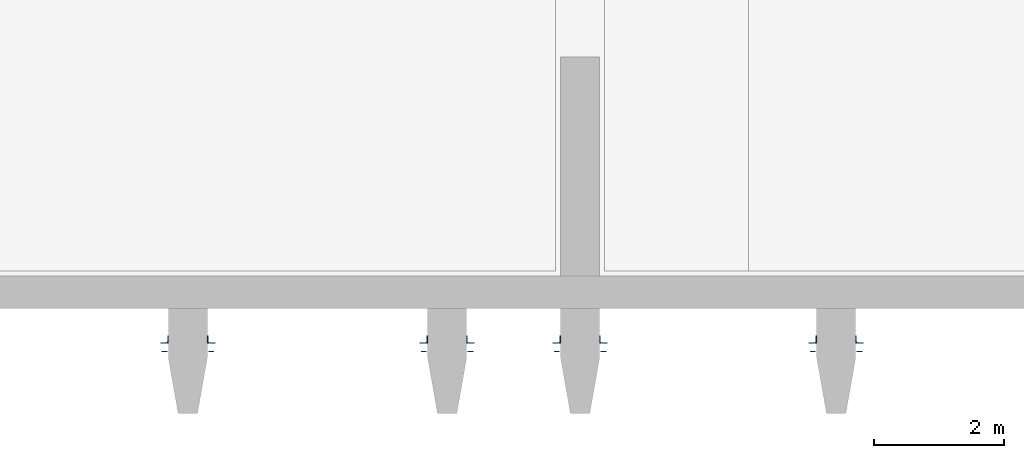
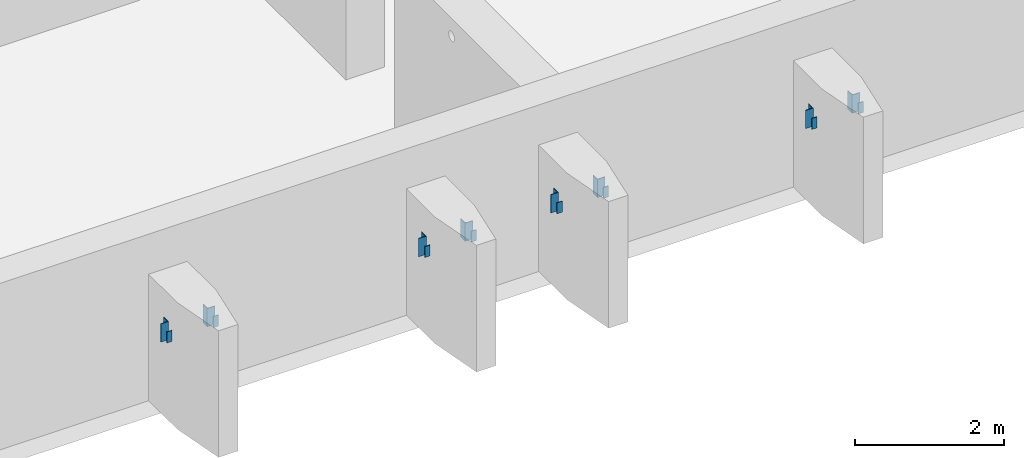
# One storey, part 6 of 22: 16 columns.
"""IFC2X3 building model written with IfcOpenShell, lengths in millimetres."""

import ifcopenshell
import ifcopenshell.guid

model = None  # the IFC model being written
_history = None  # IfcOwnerHistory: only IFC2X3 demands one
_inside = {}  # id of a spatial element -> (the spatial element, [elements in it])
_under = {}  # id of a project, library or spatial element -> (it, [spatial elements below it])
_declared = {}  # id of a project -> (the project, [libraries it declares])
_typed = {}  # id of a type object -> (the type object, [elements of that type])
_made_of = {}  # id of a material, layer set ... -> (it, [elements and type objects made of it])


def new_model(schema):
    """Start an empty IFC model of exactly this schema.

    Asked for "IFC4X3", IfcOpenShell would pick the latest addendum, in which some entities
    have other attributes; the version numbers below select the first issue.
    IFC2X3 requires an IfcOwnerHistory on every rooted entity: one is made here for all.
    """
    global model, _history
    if schema == "IFC4X3":
        model = ifcopenshell.file(schema_version=(4, 3, 0, 0))
    else:
        model = ifcopenshell.file(schema=schema)
    _inside.clear()
    _under.clear()
    _declared.clear()
    _typed.clear()
    _made_of.clear()
    _history = None
    if model.schema == "IFC2X3":
        org = make("IfcOrganization", Name="unknown")
        user = make(
            "IfcPersonAndOrganization",
            ThePerson=make("IfcPerson", FamilyName="unknown"),
            TheOrganization=org,
        )
        app = make(
            "IfcApplication",
            ApplicationDeveloper=org,
            Version="unknown",
            ApplicationFullName="unknown",
            ApplicationIdentifier="unknown",
        )
        _history = make(
            "IfcOwnerHistory",
            OwningUser=user,
            OwningApplication=app,
            ChangeAction="ADDED",
            CreationDate=0,
        )
    return model


def make(cls, **values):
    """One entity of the class cls with the attributes given. An attribute that is None is left unset."""
    return model.create_entity(
        cls, **{name: value for name, value in values.items() if value is not None}
    )


def entity(cls, *values):
    """Any entity or typed value of the class cls, its attributes in the order of the schema. None: left unset."""
    e = model.create_entity(cls)
    for i, value in enumerate(values):
        if value is not None:
            e[i] = value
    return e


def rooted(cls, **values):
    """An entity with a GlobalId (a new one), such as an element, a storey or a relation."""
    return make(cls, GlobalId=ifcopenshell.guid.new(), OwnerHistory=_history, **values)


def si_unit(unit_type, name, prefix=None):
    """IfcSIUnit, for example si_unit("LENGTHUNIT", "METRE", prefix="MILLI")."""
    return make("IfcSIUnit", UnitType=unit_type, Prefix=prefix, Name=name)


def converted_unit(unit_type, name, factor, base, dimensions=None, offset=None):
    """IfcConversionBasedUnit, such as the inch: factor (a typed value) times the base unit."""
    return make(
        "IfcConversionBasedUnit"
        if offset is None
        else "IfcConversionBasedUnitWithOffset",
        ConversionOffset=offset,
        Dimensions=None
        if dimensions is None
        else entity("IfcDimensionalExponents", *dimensions),
        UnitType=unit_type,
        Name=name,
        ConversionFactor=make(
            "IfcMeasureWithUnit", ValueComponent=factor, UnitComponent=base
        ),
    )


def derived_unit(unit_type, elements):
    """IfcDerivedUnit: a product of units, each with its exponent."""
    return make(
        "IfcDerivedUnit",
        Elements=[
            make("IfcDerivedUnitElement", Unit=unit, Exponent=power)
            for unit, power in elements
        ],
        UnitType=unit_type,
    )


def assignment(units):
    """IfcUnitAssignment: the units of a project."""
    return None if units is None else make("IfcUnitAssignment", Units=units)


def point(xyz):
    """IfcCartesianPoint."""
    return None if xyz is None else make("IfcCartesianPoint", Coordinates=xyz)


def direction(xyz):
    """IfcDirection."""
    return None if xyz is None else make("IfcDirection", DirectionRatios=xyz)


def frame(location, z_axis=None, x_axis=None):
    """IfcAxis2Placement3D, a coordinate frame: its origin and axes. An axis left out is left unset."""
    return make(
        "IfcAxis2Placement3D",
        Location=point(location),
        Axis=direction(z_axis),
        RefDirection=direction(x_axis),
    )


def frame_2d(location, x_axis=None):
    """IfcAxis2Placement2D, a coordinate frame in the plane: its origin and x axis."""
    return make(
        "IfcAxis2Placement2D", Location=point(location), RefDirection=direction(x_axis)
    )


def origin():
    """The frame at (0, 0, 0) with its axes left unset."""
    return frame((0.0, 0.0, 0.0))


def place(relative_to, where):
    """IfcLocalPlacement: puts the frame where relative to a parent placement (None: the world)."""
    return make(
        "IfcLocalPlacement", PlacementRelTo=relative_to, RelativePlacement=where
    )


def context(
    kind, dimensions, precision=None, world=None, true_north=None, identifier=None
):
    """IfcGeometricRepresentationContext, for example the 3D "Model" context."""
    return make(
        "IfcGeometricRepresentationContext",
        ContextIdentifier=identifier,
        ContextType=kind,
        CoordinateSpaceDimension=dimensions,
        Precision=precision,
        WorldCoordinateSystem=world,
        TrueNorth=true_north,
    )


def subcontext(parent, identifier, kind, view, scale=None):
    """IfcGeometricRepresentationSubContext, for example "Body" below "Model"."""
    return make(
        "IfcGeometricRepresentationSubContext",
        ContextIdentifier=identifier,
        ContextType=kind,
        ParentContext=parent,
        TargetScale=scale,
        TargetView=view,
    )


def project(units=None, contexts=None):
    """IfcProject with its units and contexts."""
    return rooted(
        "IfcProject",
        Name="project",
        RepresentationContexts=contexts,
        UnitsInContext=assignment(units),
    )


def spatial(cls, under=None, at=None, **own):
    """A site, building, storey or space (cls), placed at a placement, below another one or the project."""
    s = rooted(cls, ObjectPlacement=at, **own)
    if under is not None:
        _under.setdefault(under.id(), (under, []))[1].append(s)
    return s


def polyline(points):
    """IfcPolyline through the points."""
    return make("IfcPolyline", Points=[point(p) for p in points])


def circle_curve(where, radius):
    """IfcCircle in the frame where."""
    return make("IfcCircle", Position=where, Radius=radius)


def parameter(value):
    """IfcParameterValue: where a trimmed curve begins or ends, as a parameter of its basis curve."""
    return model.create_entity("IfcParameterValue", value)


def trimmed(basis, trim1, trim2, sense, master):
    """IfcTrimmedCurve: the piece of a basis curve between two trims."""
    return make(
        "IfcTrimmedCurve",
        BasisCurve=basis,
        Trim1=trim1,
        Trim2=trim2,
        SenseAgreement=sense,
        MasterRepresentation=master,
    )


def segment(curve, same_sense, transition):
    """IfcCompositeCurveSegment."""
    return make(
        "IfcCompositeCurveSegment",
        Transition=transition,
        SameSense=same_sense,
        ParentCurve=curve,
    )


def composite_curve(segments, self_intersect=None):
    """IfcCompositeCurve: segments joined end to end."""
    return make("IfcCompositeCurve", Segments=segments, SelfIntersect=self_intersect)


def profile(cls, at=None, kind="AREA", **sizes):
    """A parametric profile (cls). Its sizes go by their IFC names, for example OverallWidth=200.0."""
    return make(cls, ProfileType=kind, Position=at, **sizes)


def rectangle(**sizes):
    """IfcRectangleProfileDef."""
    return profile("IfcRectangleProfileDef", **sizes)


def outline(outer, holes=None, kind="AREA"):
    """IfcArbitraryClosedProfileDef: a profile drawn as a closed curve; with holes, ...WithVoids."""
    if holes is None:
        return make("IfcArbitraryClosedProfileDef", ProfileType=kind, OuterCurve=outer)
    return make(
        "IfcArbitraryProfileDefWithVoids",
        ProfileType=kind,
        OuterCurve=outer,
        InnerCurves=holes,
    )


def extrude(swept, where, along, depth):
    """IfcExtrudedAreaSolid: the profile swept, set in the frame where, extruded along a direction by depth."""
    return make(
        "IfcExtrudedAreaSolid",
        SweptArea=swept,
        Position=where,
        ExtrudedDirection=direction(along),
        Depth=depth,
    )


def shape(context_of_items, identifier, shape_type, items):
    """IfcShapeRepresentation: the items that make up one representation, for example the "Body"."""
    return make(
        "IfcShapeRepresentation",
        ContextOfItems=context_of_items,
        RepresentationIdentifier=identifier,
        RepresentationType=shape_type,
        Items=items,
    )


def source(mapping_origin, context_of_items, identifier, shape_type, items):
    """IfcRepresentationMap: a shape defined once, which mapped items show again and again."""
    return make(
        "IfcRepresentationMap",
        MappingOrigin=mapping_origin,
        MappedRepresentation=shape(context_of_items, identifier, shape_type, items),
    )


def transform(
    local_origin,
    x_axis=None,
    y_axis=None,
    z_axis=None,
    scale=None,
    scale2=None,
    scale3=None,
    uniform=True,
):
    """IfcCartesianTransformationOperator3D, or its non-uniform kind. x_axis, y_axis, z_axis: its Axis1, 2, 3."""
    if uniform:
        return make(
            "IfcCartesianTransformationOperator3D",
            Axis1=direction(x_axis),
            Axis2=direction(y_axis),
            LocalOrigin=point(local_origin),
            Scale=scale,
            Axis3=direction(z_axis),
        )
    return make(
        "IfcCartesianTransformationOperator3DnonUniform",
        Axis1=direction(x_axis),
        Axis2=direction(y_axis),
        LocalOrigin=point(local_origin),
        Scale=scale,
        Axis3=direction(z_axis),
        Scale2=scale2,
        Scale3=scale3,
    )


def mapped(mapping_source, mapping_target):
    """IfcMappedItem: shows the shape of a source again, moved by a transform."""
    return make(
        "IfcMappedItem", MappingSource=mapping_source, MappingTarget=mapping_target
    )


def material(Name=None, Category=None):
    """IfcMaterial."""
    return make("IfcMaterial", Name=Name, Category=Category)


def made_of(thing, what):
    """Note that an element or type object is made of a material, layer set ...; save() writes the relation."""
    if what is not None:
        _made_of.setdefault(what.id(), (what, []))[1].append(thing)
    return thing


def type_object(cls, material=None, **own):
    """A type object (cls), such as IfcWallType, which elements share."""
    return made_of(rooted(cls, **own), material)


def type_shapes(of_type, sources):
    """Give a type object the sources (RepresentationMaps) that its elements show as mapped items."""
    of_type.RepresentationMaps = sources


def element(
    cls,
    number,
    at=None,
    inside=None,
    cuts=None,
    type_object=None,
    material=None,
    context=None,
    identifier="Body",
    shape_type=None,
    held_by="IfcProductDefinitionShape",
    body=None,
    shapes=None,
    **own,
):
    """One element of the class cls, such as IfcWall. Its Tag is "e" and its number.

    at: its placement. inside: the storey or other place that contains it. cuts: it is an
    opening in that element (IfcRelVoidsElement). A single representation is given by context,
    identifier, shape_type and body (its items); several are given by shapes. held_by: the class
    of the entity that holds the representations. save() writes the other relations.
    """
    e = rooted(cls, Tag="e%d" % number, ObjectPlacement=at, **own)
    if body is not None:
        shapes = [shape(context, identifier, shape_type, body)]
    if shapes is not None:
        e.Representation = make(held_by, Representations=shapes)
    if inside is not None:
        _inside.setdefault(inside.id(), (inside, []))[1].append(e)
    if cuts is not None:
        rooted(
            "IfcRelVoidsElement", RelatingBuildingElement=cuts, RelatedOpeningElement=e
        )
    if type_object is not None:
        _typed.setdefault(type_object.id(), (type_object, []))[1].append(e)
    return made_of(e, material)


def aggregate(whole, parts):
    """IfcRelAggregates: a whole, such as a stair, and the parts it consists of."""
    return rooted("IfcRelAggregates", RelatingObject=whole, RelatedObjects=parts)


def save(model, path):
    """Write the relations noted so far, then the file.

    IfcRelAggregates (storeys below a building ...), IfcRelContainedInSpatialStructure (elements
    in a storey), IfcRelDefinesByType, IfcRelAssociatesMaterial and IfcRelDeclares: one each for
    every whole, place, type object, material and project.
    """
    for whole, parts in _under.values():
        aggregate(whole, parts)
    for where, things in _inside.values():
        rooted(
            "IfcRelContainedInSpatialStructure",
            RelatedElements=things,
            RelatingStructure=where,
        )
    for kind, things in _typed.values():
        rooted("IfcRelDefinesByType", RelatedObjects=things, RelatingType=kind)
    for what, things in _made_of.values():
        rooted("IfcRelAssociatesMaterial", RelatedObjects=things, RelatingMaterial=what)
    for by, libraries in _declared.values():
        rooted("IfcRelDeclares", RelatingContext=by, RelatedDefinitions=libraries)
    model.write(path)


model = new_model("IFC2X3")

# Units and contexts
model_context = context("Model", 3, precision=0.01, world=origin(), true_north=direction((6.12303176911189e-17, 1.0)))
body_context = subcontext(model_context, "Body", "Model", "MODEL_VIEW")
ifc_project = project(units=[si_unit("LENGTHUNIT", "METRE", prefix="MILLI"), si_unit("AREAUNIT", "SQUARE_METRE"), si_unit("VOLUMEUNIT", "CUBIC_METRE"), converted_unit("PLANEANGLEUNIT", "DEGREE", entity("IfcRatioMeasure", 0.0174532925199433), si_unit("PLANEANGLEUNIT", "RADIAN"), dimensions=[0, 0, 0, 0, 0, 0, 0]), si_unit("MASSUNIT", "GRAM", prefix="KILO"), derived_unit("MASSDENSITYUNIT", [(si_unit("MASSUNIT", "GRAM", prefix="KILO"), 1), (si_unit("LENGTHUNIT", "METRE"), -3)]), si_unit("TIMEUNIT", "SECOND"), si_unit("FREQUENCYUNIT", "HERTZ"), si_unit("THERMODYNAMICTEMPERATUREUNIT", "DEGREE_CELSIUS"), derived_unit("THERMALTRANSMITTANCEUNIT", [(si_unit("MASSUNIT", "GRAM", prefix="KILO"), 1), (si_unit("THERMODYNAMICTEMPERATUREUNIT", "KELVIN"), -1), (si_unit("TIMEUNIT", "SECOND"), -3)]), derived_unit("VOLUMETRICFLOWRATEUNIT", [(si_unit("LENGTHUNIT", "METRE"), 3), (si_unit("TIMEUNIT", "SECOND"), -1)]), si_unit("ELECTRICCURRENTUNIT", "AMPERE"), si_unit("ELECTRICVOLTAGEUNIT", "VOLT"), si_unit("POWERUNIT", "WATT"), si_unit("FORCEUNIT", "NEWTON", prefix="KILO"), si_unit("ILLUMINANCEUNIT", "LUX"), si_unit("LUMINOUSFLUXUNIT", "LUMEN"), si_unit("LUMINOUSINTENSITYUNIT", "CANDELA"), derived_unit("USERDEFINED", [(si_unit("MASSUNIT", "GRAM", prefix="KILO"), -1), (si_unit("LENGTHUNIT", "METRE"), -2), (si_unit("TIMEUNIT", "SECOND"), 3), (si_unit("LUMINOUSFLUXUNIT", "LUMEN"), 1)]), derived_unit("LINEARVELOCITYUNIT", [(si_unit("LENGTHUNIT", "METRE"), 1), (si_unit("TIMEUNIT", "SECOND"), -1)]), si_unit("PRESSUREUNIT", "PASCAL"), derived_unit("USERDEFINED", [(si_unit("LENGTHUNIT", "METRE"), -2), (si_unit("MASSUNIT", "GRAM", prefix="KILO"), 1), (si_unit("TIMEUNIT", "SECOND"), -2)])], contexts=[model_context])

# Site, building, storey
site_placement = place(None, origin())
site = spatial("IfcSite", under=ifc_project, at=site_placement, Name="Default", CompositionType="ELEMENT")
building_placement = place(site_placement, origin())
building = spatial("IfcBuilding", under=site, at=building_placement, Name="niet gebruiken", CompositionType="ELEMENT")
storey_placement = place(building_placement, frame((0.0, 0.0, 15000.0)))
storey = spatial("IfcBuildingStorey", under=building, at=storey_placement, Name="04 vierde verdieping", CompositionType="ELEMENT", Elevation=15000.0)

# Columns
ifc_material = material(Name="NLRS_h2_staal")
column_type_1 = type_object("IfcColumnType", Name="kolomgelijzijdig hoekprofiel LEQU_120x120x12_!", PredefinedType="COLUMN", material=ifc_material)
shared_shape_1 = source(origin(), body_context, "Body", "SweptSolid", [
    extrude(outline(composite_curve([segment(polyline([(-74.6666666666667, -45.3333333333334), (45.3333333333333, -45.3333333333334)]), True, "CONTINUOUS"), segment(polyline([(45.3333333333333, -45.3333333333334), (45.3333333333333, 74.6666666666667)]), True, "CONTINUOUS"), segment(polyline([(45.3333333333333, 74.6666666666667), (41.3333333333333, 74.6666666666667)]), True, "CONTINUOUS"), segment(trimmed(circle_curve(frame_2d((41.3333333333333, 66.6666666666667), x_axis=(0.0, 1.0)), 8.0), [parameter(0.0)], [parameter(90.0)], True, "PARAMETER"), True, "CONTINUOUS"), segment(polyline([(33.3333333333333, 66.6666666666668), (33.3333333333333, -17.3333333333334)]), True, "CONTINUOUS"), segment(trimmed(circle_curve(frame_2d((17.3333333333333, -17.3333333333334), x_axis=(1.0, 0.0)), 16.0), [parameter(270.0)], [parameter(0.0)], True, "PARAMETER"), False, "CONTINUOUS"), segment(polyline([(17.3333333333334, -33.3333333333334), (-66.6666666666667, -33.3333333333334)]), True, "CONTINUOUS"), segment(trimmed(circle_curve(frame_2d((-66.6666666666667, -41.3333333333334), x_axis=(0.0, 1.0)), 7.99999999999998), [parameter(0.0)], [parameter(90.0000000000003)], True, "PARAMETER"), True, "CONTINUOUS"), segment(polyline([(-74.6666666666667, -41.3333333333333), (-74.6666666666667, -45.3333333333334)]), True, "CONTINUOUS")], self_intersect=False)), frame((32.8333333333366, 32.8333333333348, 16235.0), z_axis=(0.0, 0.0, 1.0), x_axis=(0.0, -1.0, 0.0)), (0.0, 0.0, 1.0), 300.00000000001),
])
type_shapes(column_type_1, [shared_shape_1])
for number, where, z_axis, x_axis in (
    (1, (141437.5, 1246.49999999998, -15000.0), (0.0, 0.0, 1.0), (0.0, 1.0, 0.0)),
    (2, (145437.5, 1246.49999999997, -15000.0), (0.0, 0.0, 1.0), (0.0, 1.0, 0.0)),
    (3, (151437.499999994, 1246.5, -15000.0), (0.0, 0.0, 1.0), (0.0, 1.0, 0.0)),
    (4, (147487.5, 1246.49999999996, -15000.0), (0.0, 0.0, 1.0), (0.0, 1.0, 0.0)),
):
    element("IfcColumn", number, at=place(storey_placement, frame(where, z_axis=z_axis, x_axis=x_axis)), inside=storey, type_object=column_type_1, material=ifc_material, Name="NLRS_28.11_SCO_TLB_stalen kolom hoekprofiel gelijkzijdig_gen:kolomgelijzijdig hoekprofiel LEQU_120x120x12_!", ObjectType="kolomgelijzijdig hoekprofiel LEQU_120x120x12_!", context=body_context, shape_type="MappedRepresentation", body=[
        mapped(shared_shape_1, transform((0.0, 0.0, 0.0), scale=1.0)),
    ])
column_type_2 = type_object("IfcColumnType", Name="kolomgelijzijdig hoekprofiel LEQU_120x120x12_!", PredefinedType="COLUMN", material=ifc_material)
shared_shape_2 = source(origin(), body_context, "Body", "SweptSolid", [
    extrude(outline(composite_curve([segment(polyline([(-45.3333333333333, -45.3333333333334), (74.6666666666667, -45.3333333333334)]), True, "CONTINUOUS"), segment(polyline([(74.6666666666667, -45.3333333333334), (74.6666666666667, -41.3333333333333)]), True, "CONTINUOUS"), segment(trimmed(circle_curve(frame_2d((66.6666666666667, -41.3333333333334), x_axis=(1.0, 0.0)), 7.99999999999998), [parameter(0.0)], [parameter(90.0000000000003)], True, "PARAMETER"), True, "CONTINUOUS"), segment(polyline([(66.6666666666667, -33.3333333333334), (-17.3333333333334, -33.3333333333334)]), True, "CONTINUOUS"), segment(trimmed(circle_curve(frame_2d((-17.3333333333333, -17.3333333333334), x_axis=(0.0, -1.0)), 16.0), [parameter(270.0)], [parameter(0.0)], True, "PARAMETER"), False, "CONTINUOUS"), segment(polyline([(-33.3333333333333, -17.3333333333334), (-33.3333333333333, 66.6666666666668)]), True, "CONTINUOUS"), segment(trimmed(circle_curve(frame_2d((-41.3333333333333, 66.6666666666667), x_axis=(1.0, 0.0)), 8.0), [parameter(0.0)], [parameter(90.0)], True, "PARAMETER"), True, "CONTINUOUS"), segment(polyline([(-41.3333333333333, 74.6666666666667), (-45.3333333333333, 74.6666666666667)]), True, "CONTINUOUS"), segment(polyline([(-45.3333333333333, 74.6666666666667), (-45.3333333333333, -45.3333333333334)]), True, "CONTINUOUS")], self_intersect=False)), frame((32.8333333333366, -32.8333333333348, 16235.0), z_axis=(0.0, 0.0, 1.0), x_axis=(0.0, -1.0, 0.0)), (0.0, 0.0, 1.0), 300.00000000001),
])
type_shapes(column_type_2, [shared_shape_2])
for number, where, z_axis, x_axis in (
    (5, (142062.500000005, 1246.49999999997, -15000.0), (0.0, 0.0, 1.0), (0.0, 1.0, 0.0)),
    (6, (152062.500000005, 1246.49999999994, -15000.0), (0.0, 0.0, 1.0), (0.0, 1.0, 0.0)),
    (7, (148112.499999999, 1246.5, -15000.0), (0.0, 0.0, 1.0), (0.0, 1.0, 0.0)),
    (8, (146062.500000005, 1246.49999999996, -15000.0), (0.0, 0.0, 1.0), (0.0, 1.0, 0.0)),
):
    element("IfcColumn", number, at=place(storey_placement, frame(where, z_axis=z_axis, x_axis=x_axis)), inside=storey, type_object=column_type_2, material=ifc_material, Name="NLRS_28.11_SCO_TLB_stalen kolom hoekprofiel gelijkzijdig_gen:kolomgelijzijdig hoekprofiel LEQU_120x120x12_!", ObjectType="kolomgelijzijdig hoekprofiel LEQU_120x120x12_!", context=body_context, shape_type="MappedRepresentation", body=[
        mapped(shared_shape_2, transform((0.0, 0.0, 0.0), scale=1.0)),
    ])
column_type_3 = type_object("IfcColumnType", Name="kolom stripstaal RECT_80x12", PredefinedType="COLUMN", material=ifc_material)
shared_shape_3 = source(origin(), body_context, "Body", "SweptSolid", [
    extrude(rectangle(XDim=12.0, YDim=79.9999999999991, at=frame_2d((0.0, -8.66506866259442e-12), x_axis=(1.0, 0.0))), frame((141390.0, 1108.0, 16295.0), z_axis=(0.0, 0.0, 1.0), x_axis=(0.0, -1.0, 0.0)), (0.0, 0.0, 1.0), 180.000000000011),
])
type_shapes(column_type_3, [shared_shape_3])
column_1_placement = place(storey_placement, frame((0.0, 0.0, -15000.0)))
element("IfcColumn", 9, at=column_1_placement, inside=storey, type_object=column_type_3, material=ifc_material, Name="NLRS_28.11_SCO_TLB_stalen kolom stripstaal_gen:kolom stripstaal RECT_80x12", ObjectType="kolom stripstaal RECT_80x12", context=body_context, shape_type="MappedRepresentation", body=[
    mapped(shared_shape_3, transform((0.0, 0.0, 0.0), scale=1.0)),
])
column_type_4 = type_object("IfcColumnType", Name="kolom stripstaal RECT_80x12", PredefinedType="COLUMN", material=ifc_material)
shared_shape_4 = source(origin(), body_context, "Body", "SweptSolid", [
    extrude(rectangle(XDim=12.0, YDim=79.9999999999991, at=frame_2d((0.0, -8.66506866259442e-12), x_axis=(1.0, 0.0))), frame((145390.0, 1108.0, 16295.0), z_axis=(0.0, 0.0, 1.0), x_axis=(0.0, -1.0, 0.0)), (0.0, 0.0, 1.0), 180.000000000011),
])
type_shapes(column_type_4, [shared_shape_4])
column_2_placement = place(storey_placement, frame((0.0, 0.0, -15000.0)))
element("IfcColumn", 10, at=column_2_placement, inside=storey, type_object=column_type_4, material=ifc_material, Name="NLRS_28.11_SCO_TLB_stalen kolom stripstaal_gen:kolom stripstaal RECT_80x12", ObjectType="kolom stripstaal RECT_80x12", context=body_context, shape_type="MappedRepresentation", body=[
    mapped(shared_shape_4, transform((0.0, 0.0, 0.0), scale=1.0)),
])
column_type_5 = type_object("IfcColumnType", Name="kolom stripstaal RECT_80x12", PredefinedType="COLUMN", material=ifc_material)
shared_shape_5 = source(origin(), body_context, "Body", "SweptSolid", [
    extrude(rectangle(XDim=12.0, YDim=79.9999999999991, at=frame_2d((0.0, -8.66506866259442e-12), x_axis=(1.0, 0.0))), frame((142110.0, 1108.0, 16295.0), z_axis=(0.0, 0.0, 1.0), x_axis=(0.0, -1.0, 0.0)), (0.0, 0.0, 1.0), 180.000000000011),
])
type_shapes(column_type_5, [shared_shape_5])
column_3_placement = place(storey_placement, frame((0.0, 0.0, -15000.0)))
element("IfcColumn", 11, at=column_3_placement, inside=storey, type_object=column_type_5, material=ifc_material, Name="NLRS_28.11_SCO_TLB_stalen kolom stripstaal_gen:kolom stripstaal RECT_80x12", ObjectType="kolom stripstaal RECT_80x12", context=body_context, shape_type="MappedRepresentation", body=[
    mapped(shared_shape_5, transform((0.0, 0.0, 0.0), scale=1.0)),
])
column_type_6 = type_object("IfcColumnType", Name="kolom stripstaal RECT_80x12", PredefinedType="COLUMN", material=ifc_material)
shared_shape_6 = source(origin(), body_context, "Body", "SweptSolid", [
    extrude(rectangle(XDim=12.0, YDim=79.9999999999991, at=frame_2d((0.0, -8.66506866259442e-12), x_axis=(1.0, 0.0))), frame((152110.0, 1108.0, 16295.0), z_axis=(0.0, 0.0, 1.0), x_axis=(0.0, -1.0, 0.0)), (0.0, 0.0, 1.0), 180.000000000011),
])
type_shapes(column_type_6, [shared_shape_6])
column_4_placement = place(storey_placement, frame((0.0, 0.0, -15000.0)))
element("IfcColumn", 12, at=column_4_placement, inside=storey, type_object=column_type_6, material=ifc_material, Name="NLRS_28.11_SCO_TLB_stalen kolom stripstaal_gen:kolom stripstaal RECT_80x12", ObjectType="kolom stripstaal RECT_80x12", context=body_context, shape_type="MappedRepresentation", body=[
    mapped(shared_shape_6, transform((0.0, 0.0, 0.0), scale=1.0)),
])
column_type_7 = type_object("IfcColumnType", Name="kolom stripstaal RECT_80x12", PredefinedType="COLUMN", material=ifc_material)
shared_shape_7 = source(origin(), body_context, "Body", "SweptSolid", [
    extrude(rectangle(XDim=12.0, YDim=79.9999999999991, at=frame_2d((0.0, -8.66506866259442e-12), x_axis=(1.0, 0.0))), frame((151390.0, 1108.0, 16295.0), z_axis=(0.0, 0.0, 1.0), x_axis=(0.0, -1.0, 0.0)), (0.0, 0.0, 1.0), 180.000000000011),
])
type_shapes(column_type_7, [shared_shape_7])
column_5_placement = place(storey_placement, frame((0.0, 0.0, -15000.0)))
element("IfcColumn", 13, at=column_5_placement, inside=storey, type_object=column_type_7, material=ifc_material, Name="NLRS_28.11_SCO_TLB_stalen kolom stripstaal_gen:kolom stripstaal RECT_80x12", ObjectType="kolom stripstaal RECT_80x12", context=body_context, shape_type="MappedRepresentation", body=[
    mapped(shared_shape_7, transform((0.0, 0.0, 0.0), scale=1.0)),
])
column_type_8 = type_object("IfcColumnType", Name="kolom stripstaal RECT_80x12", PredefinedType="COLUMN", material=ifc_material)
shared_shape_8 = source(origin(), body_context, "Body", "SweptSolid", [
    extrude(rectangle(XDim=12.0, YDim=79.9999999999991, at=frame_2d((0.0, 8.66506866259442e-12), x_axis=(1.0, 0.0))), frame((148160.0, 1108.0, 16295.0), z_axis=(0.0, 0.0, 1.0), x_axis=(0.0, -1.0, 0.0)), (0.0, 0.0, 1.0), 180.000000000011),
])
type_shapes(column_type_8, [shared_shape_8])
column_6_placement = place(storey_placement, frame((0.0, 0.0, -15000.0)))
element("IfcColumn", 14, at=column_6_placement, inside=storey, type_object=column_type_8, material=ifc_material, Name="NLRS_28.11_SCO_TLB_stalen kolom stripstaal_gen:kolom stripstaal RECT_80x12", ObjectType="kolom stripstaal RECT_80x12", context=body_context, shape_type="MappedRepresentation", body=[
    mapped(shared_shape_8, transform((0.0, 0.0, 0.0), scale=1.0)),
])
column_type_9 = type_object("IfcColumnType", Name="kolom stripstaal RECT_80x12", PredefinedType="COLUMN", material=ifc_material)
shared_shape_9 = source(origin(), body_context, "Body", "SweptSolid", [
    extrude(rectangle(XDim=12.0, YDim=79.9999999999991, at=frame_2d((0.0, -8.66506866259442e-12), x_axis=(1.0, 0.0))), frame((146110.0, 1108.0, 16295.0), z_axis=(0.0, 0.0, 1.0), x_axis=(0.0, -1.0, 0.0)), (0.0, 0.0, 1.0), 180.000000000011),
])
type_shapes(column_type_9, [shared_shape_9])
column_7_placement = place(storey_placement, frame((0.0, 0.0, -15000.0)))
element("IfcColumn", 15, at=column_7_placement, inside=storey, type_object=column_type_9, material=ifc_material, Name="NLRS_28.11_SCO_TLB_stalen kolom stripstaal_gen:kolom stripstaal RECT_80x12", ObjectType="kolom stripstaal RECT_80x12", context=body_context, shape_type="MappedRepresentation", body=[
    mapped(shared_shape_9, transform((0.0, 0.0, 0.0), scale=1.0)),
])
column_type_10 = type_object("IfcColumnType", Name="kolom stripstaal RECT_80x12", PredefinedType="COLUMN", material=ifc_material)
shared_shape_10 = source(origin(), body_context, "Body", "SweptSolid", [
    extrude(rectangle(XDim=12.0, YDim=79.9999999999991, at=frame_2d((0.0, -8.66506866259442e-12), x_axis=(1.0, 0.0))), frame((147440.0, 1108.0, 16295.0), z_axis=(0.0, 0.0, 1.0), x_axis=(0.0, -1.0, 0.0)), (0.0, 0.0, 1.0), 180.000000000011),
])
type_shapes(column_type_10, [shared_shape_10])
column_8_placement = place(storey_placement, frame((0.0, 0.0, -15000.0)))
element("IfcColumn", 16, at=column_8_placement, inside=storey, type_object=column_type_10, material=ifc_material, Name="NLRS_28.11_SCO_TLB_stalen kolom stripstaal_gen:kolom stripstaal RECT_80x12", ObjectType="kolom stripstaal RECT_80x12", context=body_context, shape_type="MappedRepresentation", body=[
    mapped(shared_shape_10, transform((0.0, 0.0, 0.0), scale=1.0)),
])

save(model, "model.ifc")
